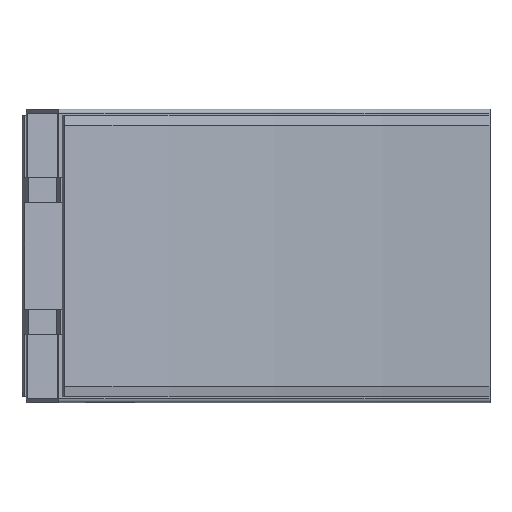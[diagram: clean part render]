
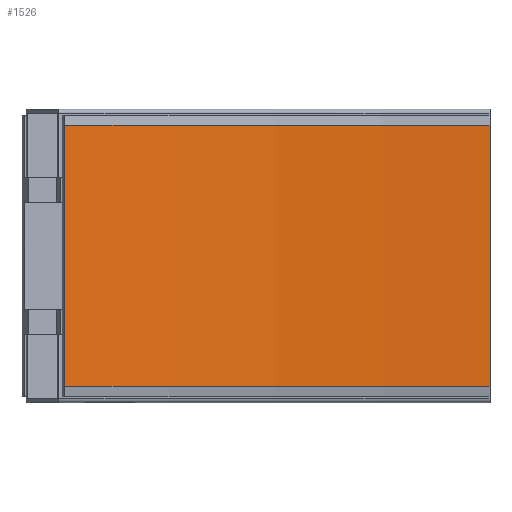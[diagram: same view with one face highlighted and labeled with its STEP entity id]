
A CAD part, top view. The second image highlights one B-rep face of the part: STEP entity #1526.
In plain terms, the highlighted cylindrical face has radius 817.5 mm (diameter 1635 mm), a partial arc.
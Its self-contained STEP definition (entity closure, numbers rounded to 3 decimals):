
#80=CYLINDRICAL_SURFACE('',#1643,817.5);
#149=FACE_OUTER_BOUND('',#236,.T.);
#236=EDGE_LOOP('',(#1052,#1053,#1054,#1055));
#323=CIRCLE('',#1633,817.5);
#328=CIRCLE('',#1642,817.5);
#400=LINE('',#2215,#526);
#401=LINE('',#2216,#527);
#526=VECTOR('',#1808,10.);
#527=VECTOR('',#1809,10.);
#643=VERTEX_POINT('',#2183);
#644=VERTEX_POINT('',#2185);
#652=VERTEX_POINT('',#2209);
#653=VERTEX_POINT('',#2211);
#799=EDGE_CURVE('',#643,#644,#323,.T.);
#813=EDGE_CURVE('',#652,#653,#328,.T.);
#814=EDGE_CURVE('',#643,#652,#400,.T.);
#815=EDGE_CURVE('',#644,#653,#401,.T.);
#1052=ORIENTED_EDGE('',*,*,#814,.T.);
#1053=ORIENTED_EDGE('',*,*,#813,.T.);
#1054=ORIENTED_EDGE('',*,*,#815,.F.);
#1055=ORIENTED_EDGE('',*,*,#799,.F.);
#1526=ADVANCED_FACE('',(#149),#80,.F.);
#1633=AXIS2_PLACEMENT_3D('',#2186,#1777,#1778);
#1642=AXIS2_PLACEMENT_3D('',#2213,#1804,#1805);
#1643=AXIS2_PLACEMENT_3D('',#2214,#1806,#1807);
#1777=DIRECTION('center_axis',(0.,1.,0.));
#1778=DIRECTION('ref_axis',(0.,0.,-1.));
#1804=DIRECTION('center_axis',(0.,1.,0.));
#1805=DIRECTION('ref_axis',(0.,0.,-1.));
#1806=DIRECTION('center_axis',(0.,1.,0.));
#1807=DIRECTION('ref_axis',(0.,0.,-1.));
#1808=DIRECTION('',(0.,1.,0.));
#1809=DIRECTION('',(0.,1.,0.));
#2183=CARTESIAN_POINT('',(0.,-65.,42.5));
#2185=CARTESIAN_POINT('',(-211.585,-65.,70.356));
#2186=CARTESIAN_POINT('Origin',(0.,-65.,
860.));
#2209=CARTESIAN_POINT('',(0.,65.,42.5));
#2211=CARTESIAN_POINT('',(-211.585,65.,70.356));
#2213=CARTESIAN_POINT('Origin',(0.,65.,860.));
#2214=CARTESIAN_POINT('Origin',(0.,0.,860.));
#2215=CARTESIAN_POINT('',(0.,-65.,42.5));
#2216=CARTESIAN_POINT('',(-211.585,-65.,70.356));
